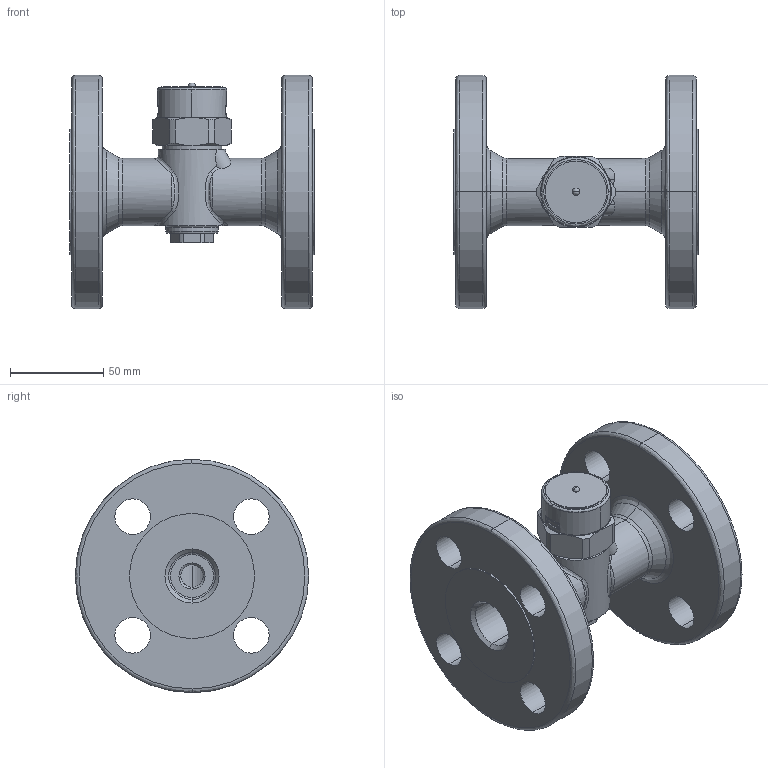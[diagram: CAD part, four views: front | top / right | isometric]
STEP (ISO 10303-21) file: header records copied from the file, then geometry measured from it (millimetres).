
FILE_DESCRIPTION( (''), '2;1');
FILE_NAME ('PC1276.13744.TSD-42F 25A JIS20K_28624.stp','2023-07-25T09:57:37',(''),(''),'spGate 19.8.4 (****-****-****-****)','','');
FILE_SCHEMA (('AUTOMOTIVE_DESIGN'));
Length unit declared in the file: millimetre
Products named in the file (8): Assembly; TSD-42F strainer cap; TSD-42F 銘板鋲; TSD-42F gasket; TSD-42F 25A 20K 本体　3D; TSD-42F 銘板　3D; TSD-42F 保温カバー　3D; TSD-42F キャップA 3D
Assembly tree (7 placements, depth 2):
  Assembly
    TSD-42F strainer cap
    TSD-42F 銘板鋲
    TSD-42F gasket
    TSD-42F 25A 20K 本体　3D
    TSD-42F 銘板　3D
    TSD-42F 保温カバー　3D
    TSD-42F キャップA 3D
Bounding box: 131 x 125 x 125 mm (x, y, z)
Volume: 463269.6 mm3; surface area: 104158.4 mm2
Topology: 7 solids, 7 shells, 340 faces, 784 edges, 464 vertices
Faces by surface type: bspline 142, cylinder 140, plane 56, sphere 2
Entity records: 18729 total; most frequent: CARTESIAN_POINT 5609, ORIENTED_EDGE 1528, DIRECTION 1224, COLOUR_RGB 1111, PRESENTATION_STYLE_ASSIGNMENT 1111, STYLED_ITEM 1111, EDGE_CURVE 764, DRAUGHTING_PRE_DEFINED_CURVE_FONT 764
